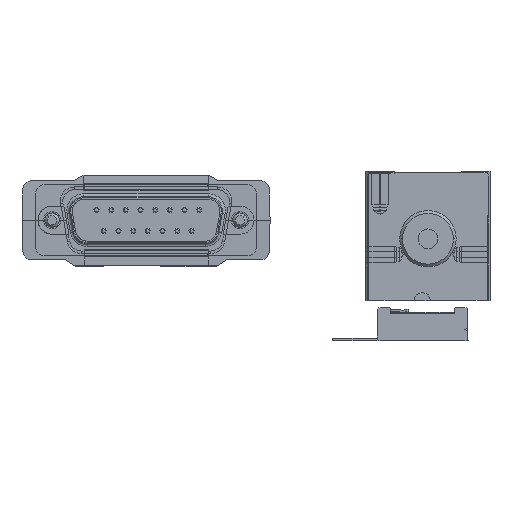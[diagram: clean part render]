
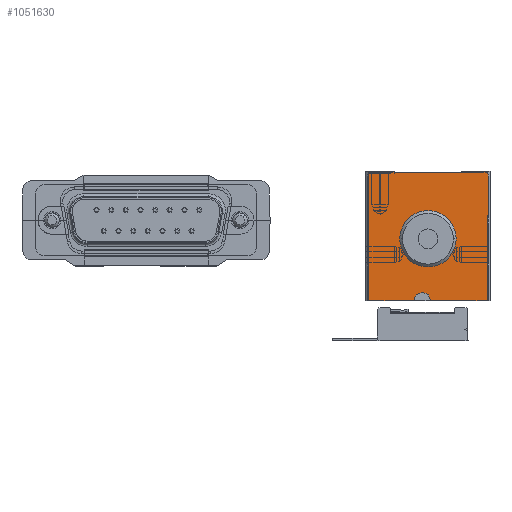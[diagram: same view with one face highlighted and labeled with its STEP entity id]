
A CAD part, front view. The second image highlights one B-rep face of the part: STEP entity #1051630.
In plain terms, the highlighted planar face has unit normal (0, -1, 0) as drawn and (1, 0, 0) by its records, which use the part's own axes.
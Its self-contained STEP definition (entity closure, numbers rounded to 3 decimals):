
#1042950=CARTESIAN_POINT('',(40.,22.,0.));
#1042960=DIRECTION('',(0.,-1.,0.));
#1042970=VECTOR('',#1042960,1.);
#1042980=LINE('',#1042950,#1042970);
#1042990=CARTESIAN_POINT('',(40.,5.,0.));
#1043000=VERTEX_POINT('',#1042990);
#1043010=CARTESIAN_POINT('',(40.,0.5,0.));
#1043020=VERTEX_POINT('',#1043010);
#1043030=EDGE_CURVE('',#1043000,#1043020,#1042980,.T.);
#1045900=CARTESIAN_POINT('',(40.,0.5,-23.));
#1045910=VERTEX_POINT('',#1045900);
#1045940=CARTESIAN_POINT('',(40.,0.,-23.));
#1045950=DIRECTION('',(0.,1.,0.));
#1045960=VECTOR('',#1045950,1.);
#1045970=LINE('',#1045940,#1045960);
#1045980=CARTESIAN_POINT('',(40.,8.6,-23.));
#1045990=VERTEX_POINT('',#1045980);
#1046000=EDGE_CURVE('',#1045910,#1045990,#1045970,.T.);
#1046220=CARTESIAN_POINT('',(40.,11.4,-23.));
#1046230=VERTEX_POINT('',#1046220);
#1046260=CARTESIAN_POINT('',(40.,21.5,-23.));
#1046270=VERTEX_POINT('',#1046260);
#1046280=EDGE_CURVE('',#1046230,#1046270,#1045970,.T.);
#1048200=CARTESIAN_POINT('',(40.,11.4,0.));
#1048210=DIRECTION('',(0.,0.,1.));
#1048220=VECTOR('',#1048210,1.);
#1048230=LINE('',#1048200,#1048220);
#1048240=CARTESIAN_POINT('',(40.,11.4,-22.8));
#1048250=VERTEX_POINT('',#1048240);
#1048260=EDGE_CURVE('',#1046230,#1048250,#1048230,.T.);
#1048930=CARTESIAN_POINT('',(40.,9.8,-22.8));
#1048940=DIRECTION('',(-1.,0.,0.));
#1048950=DIRECTION('',(0.,1.,0.));
#1048960=AXIS2_PLACEMENT_3D('',#1048930,#1048940,#1048950);
#1048970=CIRCLE('',#1048960,1.2);
#1048980=CARTESIAN_POINT('',(40.,8.6,-22.8));
#1048990=VERTEX_POINT('',#1048980);
#1049000=CARTESIAN_POINT('',(40.,9.8,-21.6));
#1049010=VERTEX_POINT('',#1049000);
#1049020=EDGE_CURVE('',#1048990,#1049010,#1048970,.T.);
#1049250=CARTESIAN_POINT('',(40.,0.,-21.6));
#1049260=DIRECTION('',(0.,-1.,0.));
#1049270=VECTOR('',#1049260,1.);
#1049280=LINE('',#1049250,#1049270);
#1049290=CARTESIAN_POINT('',(40.,10.2,-21.6));
#1049300=VERTEX_POINT('',#1049290);
#1049310=EDGE_CURVE('',#1049300,#1049010,#1049280,.T.);
#1049510=CARTESIAN_POINT('',(40.,10.2,-22.8));
#1049520=DIRECTION('',(-1.,0.,0.));
#1049530=DIRECTION('',(0.,1.,0.));
#1049540=AXIS2_PLACEMENT_3D('',#1049510,#1049520,#1049530);
#1049550=CIRCLE('',#1049540,1.2);
#1049560=EDGE_CURVE('',#1049300,#1048250,#1049550,.T.);
#1049690=CARTESIAN_POINT('',(40.,8.6,0.));
#1049700=DIRECTION('',(0.,0.,-1.));
#1049710=VECTOR('',#1049700,1.);
#1049720=LINE('',#1049690,#1049710);
#1049730=EDGE_CURVE('',#1048990,#1045990,#1049720,.T.);
#1049840=CARTESIAN_POINT('',(40.,5.846,-7.9));
#1049850=DIRECTION('',(0.,-1.,0.));
#1049860=VECTOR('',#1049850,1.);
#1049870=LINE('',#1049840,#1049860);
#1049880=CARTESIAN_POINT('',(40.,21.8,-7.9));
#1049890=VERTEX_POINT('',#1049880);
#1049900=CARTESIAN_POINT('',(40.,21.5,-7.9));
#1049910=VERTEX_POINT('',#1049900);
#1049920=EDGE_CURVE('',#1049890,#1049910,#1049870,.T.);
#1050650=CARTESIAN_POINT('',(40.,0.1,-0.8))
;
#1050660=DIRECTION('',(1.,-0.,0.));
#1050670=DIRECTION('',(0.,0.,-1.));
#1050680=AXIS2_PLACEMENT_3D('',#1050650,#1050660,#1050670);
#1050690=PLANE('',#1050680);
#1050700=CARTESIAN_POINT('',(40.,20.9,-1.1));
#1050710=DIRECTION('',(1.,0.,0.));
#1050720=DIRECTION('',(0.,-1.,0.));
#1050730=AXIS2_PLACEMENT_3D('',#1050700,#1050710,#1050720);
#1050740=CIRCLE('',#1050730,0.9);
#1050750=CARTESIAN_POINT('',(40.,21.8,-1.1));
#1050760=VERTEX_POINT('',#1050750);
#1050770=CARTESIAN_POINT('',(40.,20.9,-0.2));
#1050780=VERTEX_POINT('',#1050770);
#1050790=EDGE_CURVE('',#1050760,#1050780,#1050740,.T.);
#1050800=ORIENTED_EDGE('',*,*,#1050790,.T.);
#1050810=CARTESIAN_POINT('',(40.,21.8,-0.8));
#1050820=DIRECTION('',(0.,0.,1.));
#1050830=VECTOR('',#1050820,1.);
#1050840=LINE('',#1050810,#1050830);
#1050850=EDGE_CURVE('',#1049890,#1050760,#1050840,.T.);
#1050860=ORIENTED_EDGE('',*,*,#1050850,.T.);
#1050870=ORIENTED_EDGE('',*,*,#1049920,.F.);
#1050880=CARTESIAN_POINT('',(40.,21.5,0.));
#1050890=DIRECTION('',(0.,0.,1.));
#1050900=VECTOR('',#1050890,1.);
#1050910=LINE('',#1050880,#1050900);
#1050920=CARTESIAN_POINT('',(40.,21.5,-8.));
#1050930=VERTEX_POINT('',#1050920);
#1050940=EDGE_CURVE('',#1050930,#1049910,#1050910,.T.);
#1050950=ORIENTED_EDGE('',*,*,#1050940,.T.);
#1050960=CARTESIAN_POINT('',(40.,21.5,-15.5));
#1050970=DIRECTION('',(0.,0.,-1.));
#1050980=VECTOR('',#1050970,1.);
#1050990=LINE('',#1050960,#1050980);
#1051000=EDGE_CURVE('',#1050930,#1046270,#1050990,.T.);
#1051010=ORIENTED_EDGE('',*,*,#1051000,.F.);
#1051020=ORIENTED_EDGE('',*,*,#1046280,.T.);
#1051030=ORIENTED_EDGE('',*,*,#1048260,.F.);
#1051040=ORIENTED_EDGE('',*,*,#1049560,.T.);
#1051050=ORIENTED_EDGE('',*,*,#1049310,.F.);
#1051060=ORIENTED_EDGE('',*,*,#1049020,.T.);
#1051070=ORIENTED_EDGE('',*,*,#1049730,.F.);
#1051080=ORIENTED_EDGE('',*,*,#1046000,.T.);
#1051090=CARTESIAN_POINT('',(40.,0.5,-11.5));
#1051100=DIRECTION('',(0.,0.,-1.));
#1051110=VECTOR('',#1051100,1.);
#1051120=LINE('',#1051090,#1051110);
#1051130=EDGE_CURVE('',#1043020,#1045910,#1051120,.T.);
#1051140=ORIENTED_EDGE('',*,*,#1051130,.T.);
#1051150=ORIENTED_EDGE('',*,*,#1043030,.T.);
#1051160=CARTESIAN_POINT('',(40.,5.,0.));
#1051170=DIRECTION('',(0.,0.,-1.));
#1051180=VECTOR('',#1051170,1.);
#1051190=LINE('',#1051160,#1051180);
#1051200=CARTESIAN_POINT('',(40.,5.,-0.5));
#1051210=VERTEX_POINT('',#1051200);
#1051220=EDGE_CURVE('',#1043000,#1051210,#1051190,.T.);
#1051230=ORIENTED_EDGE('',*,*,#1051220,.F.);
#1051240=CARTESIAN_POINT('',(40.,0.,-0.5));
#1051250=DIRECTION('',(0.,-1.,0.));
#1051260=VECTOR('',#1051250,1.);
#1051270=LINE('',#1051240,#1051260);
#1051280=CARTESIAN_POINT('',(40.,5.05,-0.5));
#1051290=VERTEX_POINT('',#1051280);
#1051300=EDGE_CURVE('',#1051290,#1051210,#1051270,.T.);
#1051310=ORIENTED_EDGE('',*,*,#1051300,.T.);
#1051320=CARTESIAN_POINT('',(40.,5.05,-0.8));
#1051330=DIRECTION('',(0.,0.,1.));
#1051340=VECTOR('',#1051330,1.);
#1051350=LINE('',#1051320,#1051340);
#1051360=CARTESIAN_POINT('',(40.,5.05,-0.2));
#1051370=VERTEX_POINT('',#1051360);
#1051380=EDGE_CURVE('',#1051290,#1051370,#1051350,.T.);
#1051390=ORIENTED_EDGE('',*,*,#1051380,.F.);
#1051400=CARTESIAN_POINT('',(40.,5.646,-0.2));
#1051410=DIRECTION('',(0.,1.,0.));
#1051420=VECTOR('',#1051410,1.);
#1051430=LINE('',#1051400,#1051420);
#1051440=EDGE_CURVE('',#1051370,#1050780,#1051430,.T.);
#1051450=ORIENTED_EDGE('',*,*,#1051440,.F.);
#1051460=EDGE_LOOP('',(#1051450,#1051390,#1051310,#1051230,#1051150,
#1051140,#1051080,#1051070,#1051060,#1051050,#1051040,#1051030,#1051020,
#1051010,#1050950,#1050870,#1050860,#1050800));
#1051470=FACE_OUTER_BOUND('',#1051460,.T.);
#1051480=CARTESIAN_POINT('',(40.,11.,-12.));
#1051490=DIRECTION('',(1.,0.,0.));
#1051500=DIRECTION('',(0.,1.,0.));
#1051510=AXIS2_PLACEMENT_3D('',#1051480,#1051490,#1051500);
#1051520=CIRCLE('',#1051510,5.);
#1051530=CARTESIAN_POINT('',(40.,16.,-12.));
#1051540=VERTEX_POINT('',#1051530);
#1051550=CARTESIAN_POINT('',(40.,6.,-12.));
#1051560=VERTEX_POINT('',#1051550);
#1051570=EDGE_CURVE('',#1051540,#1051560,#1051520,.T.);
#1051580=ORIENTED_EDGE('',*,*,#1051570,.F.);
#1051590=EDGE_CURVE('',#1051560,#1051540,#1051520,.T.);
#1051600=ORIENTED_EDGE('',*,*,#1051590,.F.);
#1051610=EDGE_LOOP('',(#1051600,#1051580));
#1051620=FACE_BOUND('',#1051610,.T.);
#1051630=ADVANCED_FACE('',(#1051470,#1051620),#1050690,.T.);
